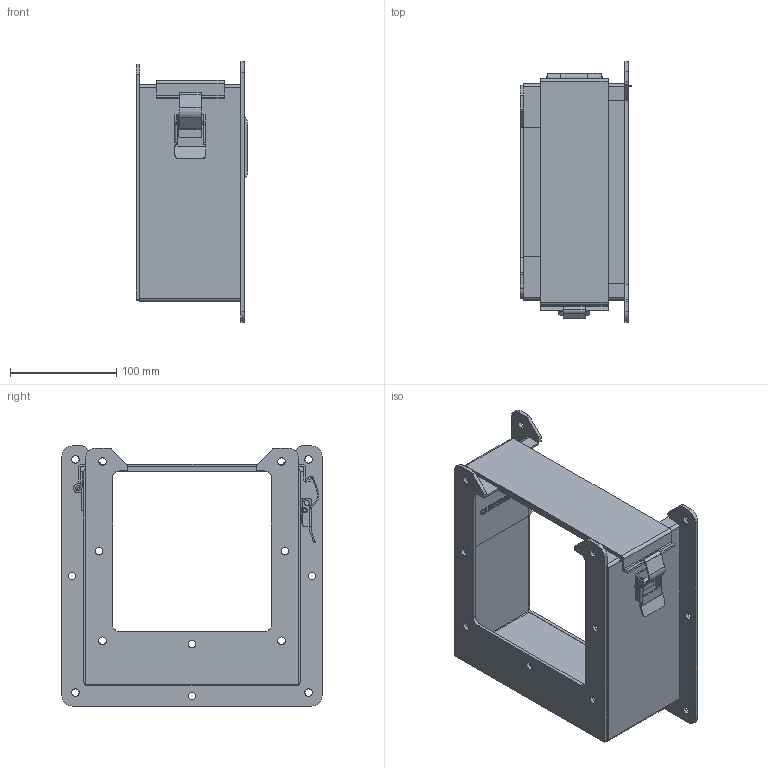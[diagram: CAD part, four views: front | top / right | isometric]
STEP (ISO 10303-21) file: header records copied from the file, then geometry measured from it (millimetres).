
FILE_DESCRIPTION(/* description */ ('Unknown'),/* implementation_level */ '2;1');
FILE_NAME(/* name */ '1485ERE',/* time_stamp */ '2020-08-31T10:45:01-04:00',/* author */ ('Unknown'),/* organization */ ('Unknown'),/* preprocessor_version */ 'ST-DEVELOPER v16.7',/* originating_system */ 'Solid Edge',/* authorisation */ 'Unknown');
FILE_SCHEMA (('AUTOMOTIVE_DESIGN {1 0 10303 214 3 1 1}'));
Length unit declared in the file: millimetre
Products named in the file (15): 1485ERE; GSK11095_oa_0; PNT11078; CCH03741_oa_1; CCH03740; COM43364; COM43344; COM52490; HNG11000_oa_2; COM52489; GSK11095_oa_3; GSK11095_oa_4; QLB20246; GSK11095_oa_5
Assembly tree (14 placements, depth 3):
  1485ERE
    GSK11095_oa_0
    PNT11078
    CCH03741_oa_1
    CCH03740
    COM43364
    COM43344
    COM52490
      COM52490
      HNG11000_oa_2
    COM52489
    GSK11095_oa_3
    GSK11095_oa_4
    QLB20246
    GSK11095_oa_5
Bounding box: 104.78 x 244.47 x 244.47 mm (x, y, z)
Volume: 306760.4 mm3; surface area: 286276.9 mm2
Topology: 15 solids, 15 shells, 362 faces, 981 edges, 669 vertices
Faces by surface type: plane 226, cylinder 115, bspline 19, torus 2
Full cylindrical faces by diameter (mm): 3.175 x1, 3.302 x2, 3.969 x2, 4.166 x2, 4.572 x1, 4.763 x3, 7.137 x14
Entity records: 14457 total; most frequent: CARTESIAN_POINT 4734, ORIENTED_EDGE 1862, DIRECTION 1765, EDGE_CURVE 931, VERTEX_POINT 649, AXIS2_PLACEMENT_3D 591, LINE 583, VECTOR 583
